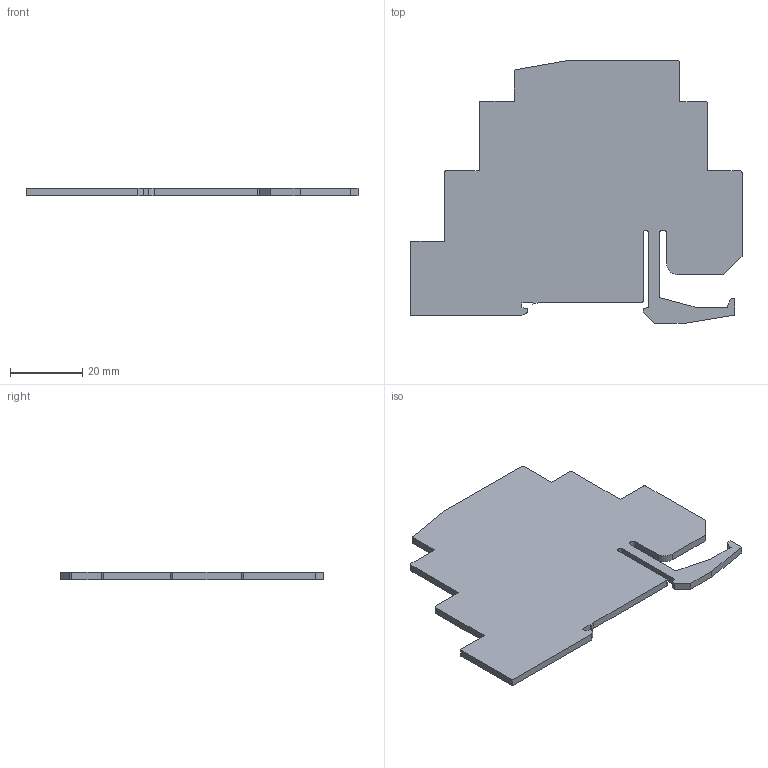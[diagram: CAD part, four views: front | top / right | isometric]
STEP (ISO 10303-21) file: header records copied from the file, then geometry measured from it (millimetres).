
FILE_DESCRIPTION(/* description */ (''),/* implementation_level */ '2;1');
FILE_NAME(/* name */ 'C:\Desktop\093.01.stp',/* time_stamp */ '2018-05-25T12:28:56+02:00',/* author */ ('marco'),/* organization */ (''),/* preprocessor_version */ 'ST-DEVELOPER v16.5',/* originating_system */ 'Autodesk Inventor 2017',/* authorisation */ '');
FILE_SCHEMA (('AUTOMOTIVE_DESIGN { 1 0 10303 214 3 1 1 }'));
Length unit declared in the file: millimetre
Products named in the file (1): 093.01
Bounding box: 91.8 x 72.7 x 2 mm (x, y, z)
Volume: 9688.4 mm3; surface area: 10611.4 mm2
Topology: 1 solids, 1 shells, 292 faces, 792 edges, 528 vertices
Faces by surface type: plane 181, bspline 93, cylinder 18
Full cylindrical faces by diameter (mm): 5.597 x1
Entity records: 9841 total; most frequent: CARTESIAN_POINT 3053, ORIENTED_EDGE 1582, DIRECTION 1041, EDGE_CURVE 791, LINE 569, VECTOR 569, VERTEX_POINT 528, EDGE_LOOP 319
